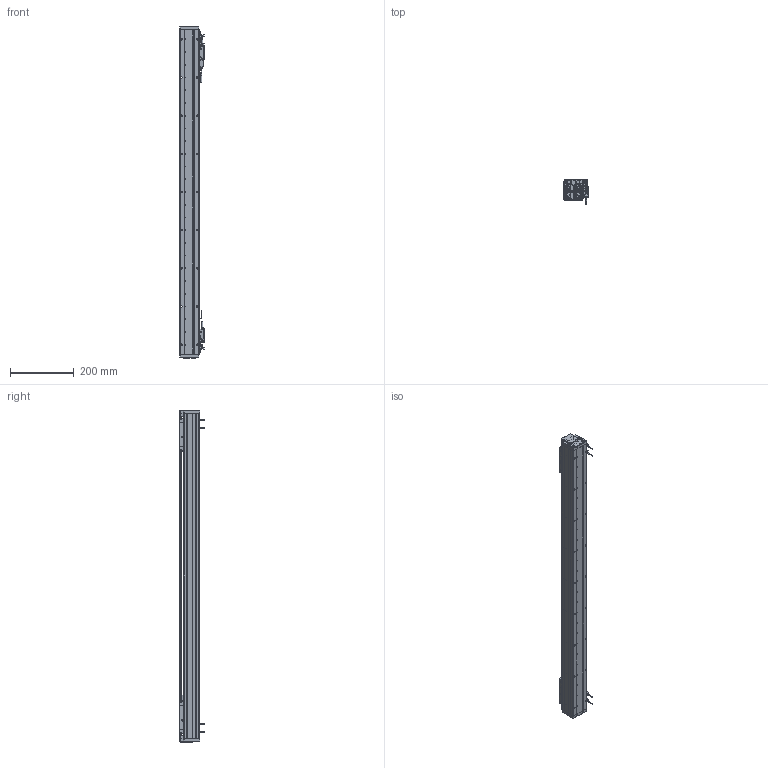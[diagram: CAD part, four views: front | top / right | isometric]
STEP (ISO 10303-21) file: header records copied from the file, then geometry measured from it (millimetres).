
FILE_DESCRIPTION (( 'STEP AP203' ), '1' );
FILE_NAME ('DA-A60-2-B1-T780-C010-0.2 眻盄萇儂.STEP', '2025-08-13T01:19:26', ( '' ), ( '' ), 'SwSTEP 2.0', 'SolidWorks 2019', '' );
FILE_SCHEMA (( 'CONFIG_CONTROL_DESIGN' ));
Length unit declared in the file: millimetre
Products named in the file (27): ｸｴｼ DA60-GYP-ZJ-01 ﾖﾐｼ荵箏邵ﾐﾓｦﾆｬ^DA-A60-2-B1-T60-C010-0.2-N(ﾄｬﾈﾏ); 复件 DA60-GT-T-00 底座钢轨^AU60-L 底座导轨; 葩璃 鞠褒情蹟譫 M3^DA-A60-2-B1-T60-C010-0.2-N(GB_FASTENER_NUT_STNAB M3-C); 复件 DA60-HC-XJ-01 中间缓冲橡胶^DA-A60-2-B1-T60-C010-0.2-N; ｸｴｼ BAKM01-W030-C1-TP-0.2 ﾖｱﾏﾟｵ扈巐ｯﾗﾓ^DA-A60-2-B1-T60-C010-0.2-N; DA60-B1-HT-B-03 賑雄怢啣; 葩璃 AKM01-W030-TRL^DA-A60-2-B1-T60-C010-0.2-N; 葩璃 DMT-010 1米m 0.2M^DA-A60-2-B1-T60-C010-0.2-N; 葩璃 XD-U-02  棠掑喜^DA-A60-2-B1-T60-C010-0.2-N; DA60-YT-B1-HT-B-01 珨极趙賑雄怢啣; 葩璃 DA60-DMT-DTJ-00 黍杅芛盓殤^DA-A60-2-B1-T60-C010-0.2-N; 复件 DA60-B1-GT-00 滑块钢轨^DA60-YT-B1-HT-B-01 一体化滑动台板; 葩璃 DA60-HK-DP-01 結え^AU60-V 幗紩賑怢; DA60-YT-B1-HT-B-01 珨极趙賑雄怢啣-1; DA-A60-2-B1-T780-C010-0.2 眻盄萇儂; 葩璃 DA60-XJ-00 砎蝶結輸^DA-A60-2-B1-T60-C010-0.2-N; DA60-T-002-00  裔啣; 复件 纯铜油杯 6x6mm^AU60-V 滚珠滑台; IU-AU60-L-00 菁釱(1020); AU60-V 幗紩賑怢; AU60-V 幗紩賑怢-1; 葩璃 PM-T45^DA-A60-2-B1-T60-C010-0.2-N; 葩璃 PM-Y65^DA-A60-2-B1-T60-C010-0.2-N; 葩璃 DA60-DG-H-N-00 傷裔^DA-A60-2-B1-T60-C010-0.2-N; ｸｴｼ DA-A60-GYP-DMT-00 ｹ箏邵ﾐﾓｦﾆｬ^DA-A60-2-B1-T60-C010-0.2-N(ﾄｬﾈﾏ); AU60-L 菁釱絳寢; ｸｴｼ DA60-DMT-DTJ-ZJ-00 ﾖﾐｼ荼ﾁﾊﾍｷﾖｧｼﾜ^DA-A60-2-B1-T60-C010-0.2-N
Assembly tree (51 placements, depth 4):
  DA-A60-2-B1-T780-C010-0.2 眻盄萇儂
    AU60-L 菁釱絳寢
      IU-AU60-L-00 菁釱(1020)
      复件 DA60-GT-T-00 底座钢轨^AU60-L 底座导轨  x2
    AU60-V 幗紩賑怢
      DA60-YT-B1-HT-B-01 珨极趙賑雄怢啣
        DA60-B1-HT-B-03 賑雄怢啣
        复件 DA60-B1-GT-00 滑块钢轨^DA60-YT-B1-HT-B-01 一体化滑动台板  x2
      葩璃 DA60-HK-DP-01 結え^AU60-V 幗紩賑怢  x2
      复件 纯铜油杯 6x6mm^AU60-V 滚珠滑台
    AU60-V 幗紩賑怢-1
      DA60-YT-B1-HT-B-01 珨极趙賑雄怢啣-1
        DA60-B1-HT-B-03 賑雄怢啣
        复件 DA60-B1-GT-00 滑块钢轨^DA60-YT-B1-HT-B-01 一体化滑动台板  x2
      葩璃 DA60-HK-DP-01 結え^AU60-V 幗紩賑怢  x2
      复件 纯铜油杯 6x6mm^AU60-V 滚珠滑台
    ｸｴｼ DA60-DMT-DTJ-ZJ-00 ﾖﾐｼ荼ﾁﾊﾍｷﾖｧｼﾜ^DA-A60-2-B1-T60-C010-0.2-N
    葩璃 PM-Y65^DA-A60-2-B1-T60-C010-0.2-N
    复件 DA60-HC-XJ-01 中间缓冲橡胶^DA-A60-2-B1-T60-C010-0.2-N  x2
    ｸｴｼ DA60-GYP-ZJ-01 ﾖﾐｼ荵箏邵ﾐﾓｦﾆｬ^DA-A60-2-B1-T60-C010-0.2-N(ﾄｬﾈﾏ)
    ｸｴｼ DA-A60-GYP-DMT-00 ｹ箏邵ﾐﾓｦﾆｬ^DA-A60-2-B1-T60-C010-0.2-N(ﾄｬﾈﾏ)  x2
    葩璃 DA60-DMT-DTJ-00 黍杅芛盓殤^DA-A60-2-B1-T60-C010-0.2-N
    葩璃 DMT-010 1米m 0.2M^DA-A60-2-B1-T60-C010-0.2-N  x2
    ｸｴｼ BAKM01-W030-C1-TP-0.2 ﾖｱﾏﾟｵ扈巐ｯﾗﾓ^DA-A60-2-B1-T60-C010-0.2-N  x2
    葩璃 DA60-XJ-00 砎蝶結輸^DA-A60-2-B1-T60-C010-0.2-N  x2
    葩璃 DA60-DG-H-N-00 傷裔^DA-A60-2-B1-T60-C010-0.2-N  x2
    DA60-T-002-00  裔啣
    葩璃 AKM01-W030-TRL^DA-A60-2-B1-T60-C010-0.2-N
    葩璃 PM-T45^DA-A60-2-B1-T60-C010-0.2-N  x4
    葩璃 XD-U-02  棠掑喜^DA-A60-2-B1-T60-C010-0.2-N
    葩璃 鞠褒情蹟譫 M3^DA-A60-2-B1-T60-C010-0.2-N(GB_FASTENER_NUT_STNAB M3-C)  x8
Bounding box: 76.95 x 80 x 1044 mm (x, y, z)
Volume: 2263475.2 mm3; surface area: 809987.3 mm2
Topology: 57 solids, 61 shells, 3951 faces, 10241 edges, 6286 vertices
Faces by surface type: plane 1524, cylinder 1479, bspline 592, cone 342, torus 12, sphere 2
Entity records: 91367 total; most frequent: CARTESIAN_POINT 27891, ORIENTED_EDGE 13036, DIRECTION 11853, EDGE_CURVE 6518, AXIS2_PLACEMENT_3D 4130, VERTEX_POINT 4125, VECTOR 3593, LINE 3593
